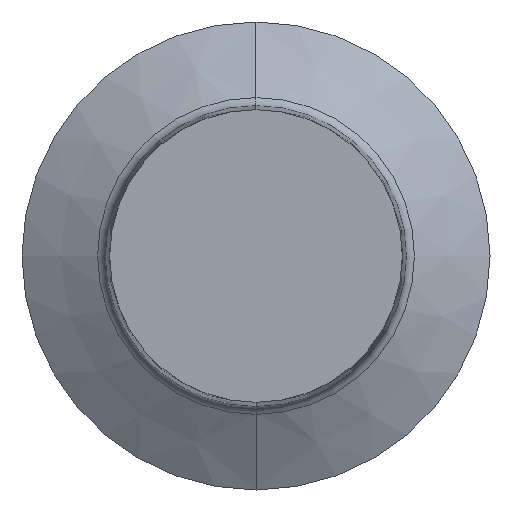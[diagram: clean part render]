
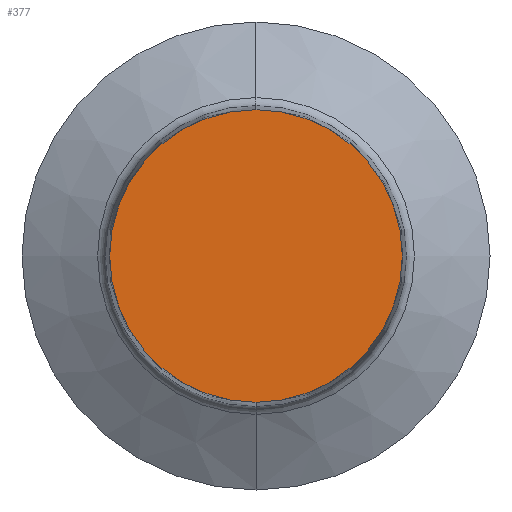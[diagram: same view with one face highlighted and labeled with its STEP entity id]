
A CAD part, left-side view. The second image highlights one B-rep face of the part: STEP entity #377.
In plain terms, the highlighted planar face has unit normal (-1, 0, 0).
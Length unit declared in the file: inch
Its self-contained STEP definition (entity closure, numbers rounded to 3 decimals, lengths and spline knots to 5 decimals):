
#10 = VERTEX_POINT ( 'NONE', #83 ) ;
#17 = VERTEX_POINT ( 'NONE', #85 ) ;
#23 = EDGE_LOOP ( 'NONE', ( #70, #67 ) ) ;
#67 = ORIENTED_EDGE ( 'NONE', *, *, #361, .F. ) ;
#70 = ORIENTED_EDGE ( 'NONE', *, *, #357, .F. ) ;
#83 = CARTESIAN_POINT ( 'NONE',  ( -0.3424, 0., -0.27191 ) ) ;
#85 = CARTESIAN_POINT ( 'NONE',  ( -0.3424, 0., 0.27191 ) ) ;
#115 = CARTESIAN_POINT ( 'NONE',  ( -0.3424, 0., 0. ) ) ;
#116 = DIRECTION ( 'NONE',  ( 1., 0., 0. ) ) ;
#117 = DIRECTION ( 'NONE',  ( 0., 0., -1. ) ) ;
#171 = DIRECTION ( 'NONE',  ( 1., 0., 0. ) ) ;
#185 = CARTESIAN_POINT ( 'NONE',  ( -0.3424, 0., 0. ) ) ;
#216 = DIRECTION ( 'NONE',  ( 0., 0., -1. ) ) ;
#225 = FACE_OUTER_BOUND ( 'NONE', #23, .T. ) ;
#226 = CARTESIAN_POINT ( 'NONE',  ( -0.3424, 0.27191, 0. ) ) ;
#231 = DIRECTION ( 'NONE',  ( -1., 0., 0. ) ) ;
#235 = PLANE ( 'NONE',  #288 ) ;
#238 = DIRECTION ( 'NONE',  ( 0., 0., 1. ) ) ;
#267 = AXIS2_PLACEMENT_3D ( 'NONE', #185, #171, #216 ) ;
#274 = CIRCLE ( 'NONE', #267, 0.27191 ) ;
#286 = AXIS2_PLACEMENT_3D ( 'NONE', #115, #116, #117 ) ;
#288 = AXIS2_PLACEMENT_3D ( 'NONE', #226, #231, #238 ) ;
#312 = CIRCLE ( 'NONE', #286, 0.27191 ) ;
#357 = EDGE_CURVE ( 'NONE', #10, #17, #312, .T. ) ;
#361 = EDGE_CURVE ( 'NONE', #17, #10, #274, .T. ) ;
#377 = ADVANCED_FACE ( 'NONE', ( #225 ), #235, .T. ) ;
